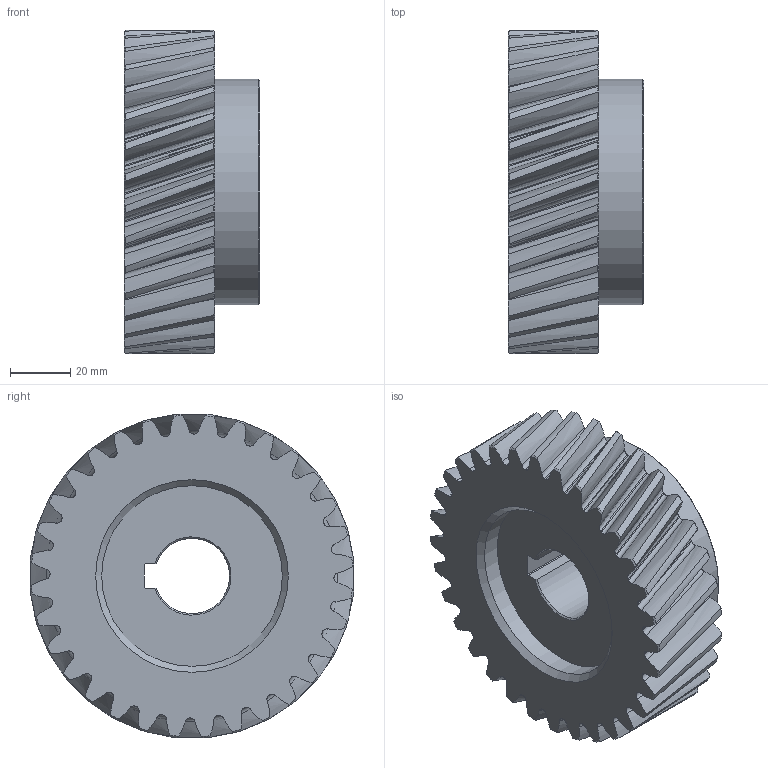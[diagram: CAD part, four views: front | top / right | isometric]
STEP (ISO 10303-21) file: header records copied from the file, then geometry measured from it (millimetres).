
FILE_DESCRIPTION(('STEP AP214'), '1');
FILE_NAME('GH3-T32D25 - Øåñòåðíÿ', '2018-06-14T13:41:30', (''), (''), 'ASCON STEP Converter 1.3', 'ASCON Math Kernel', '');
FILE_SCHEMA(('AUTOMOTIVE_DESIGN { 1 0 10303 214 3 1 1}'));
Length unit declared in the file: millimetre
Products named in the file (1): GH3-T32D25
Bounding box: 45 x 107.62 x 107.62 mm (x, y, z)
Volume: 266611.1 mm3; surface area: 41688.2 mm2
Topology: 1 solids, 1 shells, 272 faces, 805 edges, 540 vertices
Faces by surface type: bspline 128, cylinder 69, cone 68, plane 7
Full cylindrical faces by diameter (mm): 60 x1, 75 x1
Entity records: 18296 total; most frequent: CARTESIAN_POINT 10020, ORIENTED_EDGE 1596, EDGE_CURVE 798, DIRECTION 714, B_SPLINE_CURVE_WITH_KNOTS 581, VERTEX_POINT 534, AXIS2_PLACEMENT_3D 351, EDGE_LOOP 280
